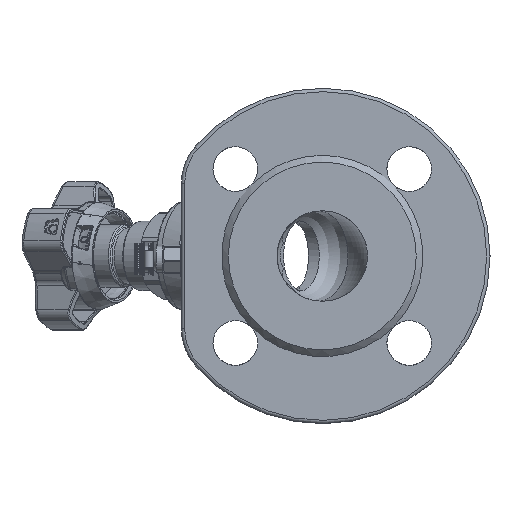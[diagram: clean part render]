
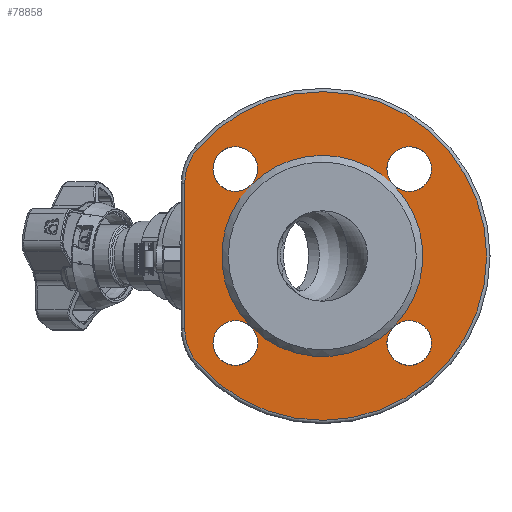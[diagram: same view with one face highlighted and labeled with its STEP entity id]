
A CAD part, left-side view. The second image highlights one B-rep face of the part: STEP entity #78858.
In plain terms, the highlighted planar face has unit normal (-1, 0, 0).
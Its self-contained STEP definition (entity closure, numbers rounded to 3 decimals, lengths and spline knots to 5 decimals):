
#3542=PLANE('',#83993);
#6022=FACE_BOUND('',#13028,.T.);
#8353=FACE_OUTER_BOUND('',#13027,.T.);
#13027=EDGE_LOOP('',(#53558,#53559,#53560,#53561));
#13028=EDGE_LOOP('',(#53562,#53563,#53564,#53565,#53566,#53567,#53568,#53569,
#53570,#53571,#53572,#53573,#53574));
#18004=LINE('',#119143,#23312);
#23312=VECTOR('',#91770,0.06499);
#28600=CIRCLE('',#83994,0.0235);
#28601=CIRCLE('',#83995,0.0735);
#28602=CIRCLE('',#83996,0.0235);
#28603=CIRCLE('',#83997,0.045);
#28604=CIRCLE('',#83998,0.01);
#28605=CIRCLE('',#83999,0.01);
#28606=CIRCLE('',#84000,0.045);
#28607=CIRCLE('',#84001,0.01);
#28608=CIRCLE('',#84002,0.01);
#28609=CIRCLE('',#84003,0.045);
#28610=CIRCLE('',#84004,0.01);
#28611=CIRCLE('',#84005,0.01);
#28612=CIRCLE('',#84006,0.045);
#28613=CIRCLE('',#84007,0.01);
#28614=CIRCLE('',#84008,0.01);
#28615=CIRCLE('',#84009,0.045);
#32548=VERTEX_POINT('',#119141);
#32549=VERTEX_POINT('',#119142);
#32550=VERTEX_POINT('',#119144);
#32551=VERTEX_POINT('',#119146);
#32552=VERTEX_POINT('',#119149);
#32553=VERTEX_POINT('',#119150);
#32554=VERTEX_POINT('',#119152);
#32555=VERTEX_POINT('',#119155);
#32556=VERTEX_POINT('',#119157);
#32557=VERTEX_POINT('',#119160);
#32558=VERTEX_POINT('',#119162);
#32559=VERTEX_POINT('',#119165);
#32560=VERTEX_POINT('',#119167);
#40852=EDGE_CURVE('',#32548,#32549,#18004,.F.);
#40853=EDGE_CURVE('',#32549,#32550,#28600,.T.);
#40854=EDGE_CURVE('',#32550,#32551,#28601,.T.);
#40855=EDGE_CURVE('',#32551,#32548,#28602,.T.);
#40856=EDGE_CURVE('',#32552,#32553,#28603,.T.);
#40857=EDGE_CURVE('',#32554,#32552,#28604,.T.);
#40858=EDGE_CURVE('',#32552,#32554,#28605,.T.);
#40859=EDGE_CURVE('',#32555,#32552,#28606,.T.);
#40860=EDGE_CURVE('',#32556,#32555,#28607,.T.);
#40861=EDGE_CURVE('',#32555,#32556,#28608,.T.);
#40862=EDGE_CURVE('',#32557,#32555,#28609,.T.);
#40863=EDGE_CURVE('',#32558,#32557,#28610,.T.);
#40864=EDGE_CURVE('',#32557,#32558,#28611,.T.);
#40865=EDGE_CURVE('',#32559,#32557,#28612,.T.);
#40866=EDGE_CURVE('',#32560,#32559,#28613,.T.);
#40867=EDGE_CURVE('',#32559,#32560,#28614,.T.);
#40868=EDGE_CURVE('',#32553,#32559,#28615,.T.);
#53558=ORIENTED_EDGE('',*,*,#40852,.T.);
#53559=ORIENTED_EDGE('',*,*,#40853,.T.);
#53560=ORIENTED_EDGE('',*,*,#40854,.T.);
#53561=ORIENTED_EDGE('',*,*,#40855,.T.);
#53562=ORIENTED_EDGE('',*,*,#40856,.F.);
#53563=ORIENTED_EDGE('',*,*,#40857,.F.);
#53564=ORIENTED_EDGE('',*,*,#40858,.F.);
#53565=ORIENTED_EDGE('',*,*,#40859,.F.);
#53566=ORIENTED_EDGE('',*,*,#40860,.F.);
#53567=ORIENTED_EDGE('',*,*,#40861,.F.);
#53568=ORIENTED_EDGE('',*,*,#40862,.F.);
#53569=ORIENTED_EDGE('',*,*,#40863,.F.);
#53570=ORIENTED_EDGE('',*,*,#40864,.F.);
#53571=ORIENTED_EDGE('',*,*,#40865,.F.);
#53572=ORIENTED_EDGE('',*,*,#40866,.F.);
#53573=ORIENTED_EDGE('',*,*,#40867,.F.);
#53574=ORIENTED_EDGE('',*,*,#40868,.F.);
#78858=ADVANCED_FACE('',(#8353,#6022),#3542,.T.);
#83993=AXIS2_PLACEMENT_3D('',#119140,#91768,#91769);
#83994=AXIS2_PLACEMENT_3D('',#119145,#91771,#91772);
#83995=AXIS2_PLACEMENT_3D('',#119147,#91773,#91774);
#83996=AXIS2_PLACEMENT_3D('',#119148,#91775,#91776);
#83997=AXIS2_PLACEMENT_3D('',#119151,#91777,#91778);
#83998=AXIS2_PLACEMENT_3D('',#119153,#91779,#91780);
#83999=AXIS2_PLACEMENT_3D('',#119154,#91781,#91782);
#84000=AXIS2_PLACEMENT_3D('',#119156,#91783,#91784);
#84001=AXIS2_PLACEMENT_3D('',#119158,#91785,#91786);
#84002=AXIS2_PLACEMENT_3D('',#119159,#91787,#91788);
#84003=AXIS2_PLACEMENT_3D('',#119161,#91789,#91790);
#84004=AXIS2_PLACEMENT_3D('',#119163,#91791,#91792);
#84005=AXIS2_PLACEMENT_3D('',#119164,#91793,#91794);
#84006=AXIS2_PLACEMENT_3D('',#119166,#91795,#91796);
#84007=AXIS2_PLACEMENT_3D('',#119168,#91797,#91798);
#84008=AXIS2_PLACEMENT_3D('',#119169,#91799,#91800);
#84009=AXIS2_PLACEMENT_3D('',#119170,#91801,#91802);
#91768=DIRECTION('center_axis',(-1.,0.,0.));
#91769=DIRECTION('ref_axis',(0.,0.,1.));
#91770=DIRECTION('',(0.,0.,1.));
#91771=DIRECTION('center_axis',(-1.,0.,0.));
#91772=DIRECTION('ref_axis',(0.,0.,1.));
#91773=DIRECTION('center_axis',(-1.,0.,0.));
#91774=DIRECTION('ref_axis',(0.,0.,1.));
#91775=DIRECTION('center_axis',(-1.,0.,0.));
#91776=DIRECTION('ref_axis',(0.,0.,1.));
#91777=DIRECTION('center_axis',(-1.,0.,0.));
#91778=DIRECTION('ref_axis',(0.,0.,1.));
#91779=DIRECTION('center_axis',(-1.,0.,0.));
#91780=DIRECTION('ref_axis',(0.,-1.,0.));
#91781=DIRECTION('center_axis',(-1.,0.,0.));
#91782=DIRECTION('ref_axis',(0.,-1.,0.));
#91783=DIRECTION('center_axis',(-1.,0.,0.));
#91784=DIRECTION('ref_axis',(0.,0.,1.));
#91785=DIRECTION('center_axis',(-1.,0.,0.));
#91786=DIRECTION('ref_axis',(0.,0.,-1.));
#91787=DIRECTION('center_axis',(-1.,0.,0.));
#91788=DIRECTION('ref_axis',(0.,0.,-1.));
#91789=DIRECTION('center_axis',(-1.,0.,0.));
#91790=DIRECTION('ref_axis',(0.,0.,1.));
#91791=DIRECTION('center_axis',(-1.,0.,0.));
#91792=DIRECTION('ref_axis',(0.,1.,0.));
#91793=DIRECTION('center_axis',(-1.,0.,0.));
#91794=DIRECTION('ref_axis',(0.,1.,0.));
#91795=DIRECTION('center_axis',(-1.,0.,0.));
#91796=DIRECTION('ref_axis',(0.,0.,1.));
#91797=DIRECTION('center_axis',(-1.,0.,0.));
#91798=DIRECTION('ref_axis',(0.,0.,1.));
#91799=DIRECTION('center_axis',(-1.,0.,0.));
#91800=DIRECTION('ref_axis',(0.,0.,1.));
#91801=DIRECTION('center_axis',(-1.,0.,0.));
#91802=DIRECTION('ref_axis',(0.,0.,1.));
#119140=CARTESIAN_POINT('Origin',(-0.107,-0.075,0.));
#119141=CARTESIAN_POINT('',(-0.107,0.0615,0.0325));
#119142=CARTESIAN_POINT('',(-0.107,0.0615,-0.0325));
#119143=CARTESIAN_POINT('',(-0.107,0.0615,-0.0325));
#119144=CARTESIAN_POINT('',(-0.107,0.05586,-0.04777));
#119145=CARTESIAN_POINT('Origin',(-0.107,0.038,-0.0325));
#119146=CARTESIAN_POINT('',(-0.107,0.05586,0.04777));
#119147=CARTESIAN_POINT('Origin',(-0.107,0.,0.));
#119148=CARTESIAN_POINT('Origin',(-0.107,0.038,0.0325));
#119149=CARTESIAN_POINT('',(-0.107,-0.03182,0.03182));
#119150=CARTESIAN_POINT('',(-0.107,0.,0.045));
#119151=CARTESIAN_POINT('Origin',(-0.107,0.,0.));
#119152=CARTESIAN_POINT('',(-0.107,-0.03889,0.02889));
#119153=CARTESIAN_POINT('Origin',(-0.107,-0.03889,0.03889));
#119154=CARTESIAN_POINT('Origin',(-0.107,-0.03889,0.03889));
#119155=CARTESIAN_POINT('',(-0.107,-0.03182,-0.03182));
#119156=CARTESIAN_POINT('Origin',(-0.107,0.,0.));
#119157=CARTESIAN_POINT('',(-0.107,-0.03889,-0.04889));
#119158=CARTESIAN_POINT('Origin',(-0.107,-0.03889,-0.03889));
#119159=CARTESIAN_POINT('Origin',(-0.107,-0.03889,-0.03889));
#119160=CARTESIAN_POINT('',(-0.107,0.03182,-0.03182));
#119161=CARTESIAN_POINT('Origin',(-0.107,0.,0.));
#119162=CARTESIAN_POINT('',(-0.107,0.03889,-0.04889));
#119163=CARTESIAN_POINT('Origin',(-0.107,0.03889,-0.03889));
#119164=CARTESIAN_POINT('Origin',(-0.107,0.03889,-0.03889));
#119165=CARTESIAN_POINT('',(-0.107,0.03182,0.03182));
#119166=CARTESIAN_POINT('Origin',(-0.107,0.,0.));
#119167=CARTESIAN_POINT('',(-0.107,0.03889,0.02889));
#119168=CARTESIAN_POINT('Origin',(-0.107,0.03889,0.03889));
#119169=CARTESIAN_POINT('Origin',(-0.107,0.03889,0.03889));
#119170=CARTESIAN_POINT('Origin',(-0.107,0.,0.));
